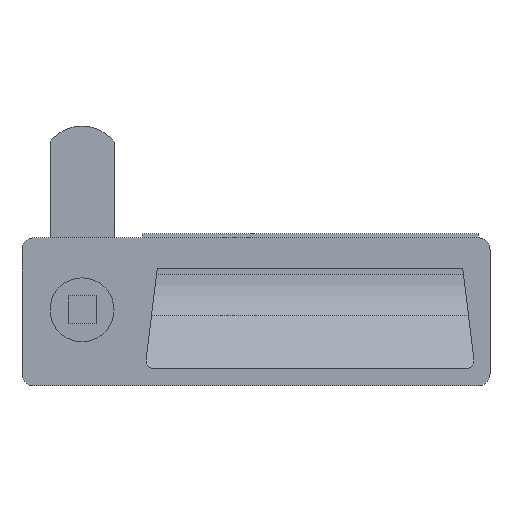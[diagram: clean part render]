
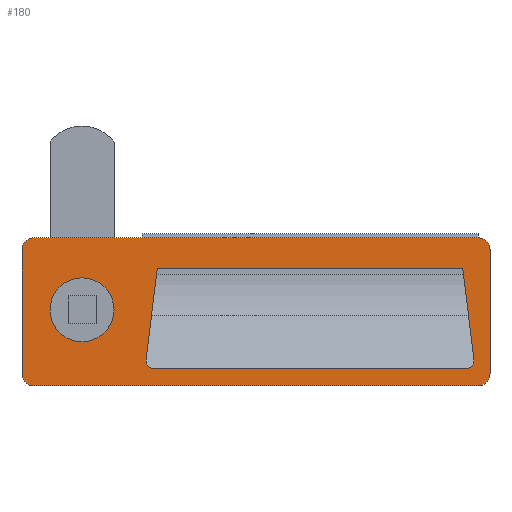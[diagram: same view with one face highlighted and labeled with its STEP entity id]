
A CAD part, top view. The second image highlights one B-rep face of the part: STEP entity #180.
In plain terms, the highlighted planar face has unit normal (0, 0, 1).
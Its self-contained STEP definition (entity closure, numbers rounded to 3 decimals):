
#180 = ADVANCED_FACE( '', ( #281, #282, #283 ), #284, .T. );
#281 = FACE_BOUND( '', #464, .T. );
#282 = FACE_OUTER_BOUND( '', #465, .T. );
#283 = FACE_BOUND( '', #466, .T. );
#284 = PLANE( '', #467 );
#464 = EDGE_LOOP( '', ( #714 ) );
#465 = EDGE_LOOP( '', ( #715, #716, #717, #718, #719, #720, #721, #722 ) );
#466 = EDGE_LOOP( '', ( #723, #724, #725, #726, #727, #728 ) );
#467 = AXIS2_PLACEMENT_3D( '', #729, #730, #731 );
#714 = ORIENTED_EDGE( '', *, *, #1325, .F. );
#715 = ORIENTED_EDGE( '', *, *, #1334, .T. );
#716 = ORIENTED_EDGE( '', *, *, #1335, .T. );
#717 = ORIENTED_EDGE( '', *, *, #1336, .T. );
#718 = ORIENTED_EDGE( '', *, *, #1337, .T. );
#719 = ORIENTED_EDGE( '', *, *, #1338, .T. );
#720 = ORIENTED_EDGE( '', *, *, #1339, .T. );
#721 = ORIENTED_EDGE( '', *, *, #1340, .T. );
#722 = ORIENTED_EDGE( '', *, *, #1341, .T. );
#723 = ORIENTED_EDGE( '', *, *, #1342, .F. );
#724 = ORIENTED_EDGE( '', *, *, #1343, .F. );
#725 = ORIENTED_EDGE( '', *, *, #1344, .F. );
#726 = ORIENTED_EDGE( '', *, *, #1345, .F. );
#727 = ORIENTED_EDGE( '', *, *, #1346, .F. );
#728 = ORIENTED_EDGE( '', *, *, #1347, .F. );
#729 = CARTESIAN_POINT( '', ( -12., -16., 2. ) );
#730 = DIRECTION( '', ( 0., 0., 1. ) );
#731 = DIRECTION( '', ( 1., 0., 0. ) );
#1325 = EDGE_CURVE( '', #1563, #1563, #1564, .T. );
#1334 = EDGE_CURVE( '', #1577, #1578, #1579, .T. );
#1335 = EDGE_CURVE( '', #1578, #1580, #1581, .T. );
#1336 = EDGE_CURVE( '', #1580, #1582, #1583, .T. );
#1337 = EDGE_CURVE( '', #1582, #1584, #1585, .T. );
#1338 = EDGE_CURVE( '', #1584, #1586, #1587, .T. );
#1339 = EDGE_CURVE( '', #1586, #1588, #1589, .T. );
#1340 = EDGE_CURVE( '', #1588, #1590, #1591, .T. );
#1341 = EDGE_CURVE( '', #1590, #1577, #1592, .T. );
#1342 = EDGE_CURVE( '', #1593, #1594, #1595, .T. );
#1343 = EDGE_CURVE( '', #1596, #1593, #1597, .T. );
#1344 = EDGE_CURVE( '', #1598, #1596, #1599, .T. );
#1345 = EDGE_CURVE( '', #1600, #1598, #1601, .T. );
#1346 = EDGE_CURVE( '', #1602, #1600, #1603, .T. );
#1347 = EDGE_CURVE( '', #1594, #1602, #1604, .T. );
#1563 = VERTEX_POINT( '', #1927 );
#1564 = CIRCLE( '', #1928, 8. );
#1577 = VERTEX_POINT( '', #1949 );
#1578 = VERTEX_POINT( '', #1950 );
#1579 = LINE( '', #1951, #1952 );
#1580 = VERTEX_POINT( '', #1953 );
#1581 = CIRCLE( '', #1954, 3. );
#1582 = VERTEX_POINT( '', #1955 );
#1583 = LINE( '', #1956, #1957 );
#1584 = VERTEX_POINT( '', #1958 );
#1585 = CIRCLE( '', #1959, 3. );
#1586 = VERTEX_POINT( '', #1960 );
#1587 = LINE( '', #1961, #1962 );
#1588 = VERTEX_POINT( '', #1963 );
#1589 = CIRCLE( '', #1964, 3. );
#1590 = VERTEX_POINT( '', #1965 );
#1591 = LINE( '', #1966, #1967 );
#1592 = CIRCLE( '', #1968, 3. );
#1593 = VERTEX_POINT( '', #1969 );
#1594 = VERTEX_POINT( '', #1970 );
#1595 = CIRCLE( '', #1971, 2. );
#1596 = VERTEX_POINT( '', #1972 );
#1597 = LINE( '', #1973, #1974 );
#1598 = VERTEX_POINT( '', #1975 );
#1599 = LINE( '', #1976, #1977 );
#1600 = VERTEX_POINT( '', #1978 );
#1601 = LINE( '', #1979, #1980 );
#1602 = VERTEX_POINT( '', #1981 );
#1603 = CIRCLE( '', #1982, 2. );
#1604 = LINE( '', #1983, #1984 );
#1927 = CARTESIAN_POINT( '', ( 8., 0., 2. ) );
#1928 = AXIS2_PLACEMENT_3D( '', #2398, #2399, #2400 );
#1949 = CARTESIAN_POINT( '', ( -15., 15., 2. ) );
#1950 = CARTESIAN_POINT( '', ( -15., -16., 2. ) );
#1951 = CARTESIAN_POINT( '', ( -15., 15., 2. ) );
#1952 = VECTOR( '', #2409, 1000. );
#1953 = CARTESIAN_POINT( '', ( -12., -19., 2. ) );
#1954 = AXIS2_PLACEMENT_3D( '', #2410, #2411, #2412 );
#1955 = CARTESIAN_POINT( '', ( 99., -19., 2. ) );
#1956 = CARTESIAN_POINT( '', ( -12., -19., 2. ) );
#1957 = VECTOR( '', #2413, 1000. );
#1958 = CARTESIAN_POINT( '', ( 102., -16., 2. ) );
#1959 = AXIS2_PLACEMENT_3D( '', #2414, #2415, #2416 );
#1960 = CARTESIAN_POINT( '', ( 102., 15., 2. ) );
#1961 = CARTESIAN_POINT( '', ( 102., -16., 2. ) );
#1962 = VECTOR( '', #2417, 1000. );
#1963 = CARTESIAN_POINT( '', ( 99., 18., 2. ) );
#1964 = AXIS2_PLACEMENT_3D( '', #2418, #2419, #2420 );
#1965 = CARTESIAN_POINT( '', ( -12., 18., 2. ) );
#1966 = CARTESIAN_POINT( '', ( 99., 18., 2. ) );
#1967 = VECTOR( '', #2421, 1000. );
#1968 = AXIS2_PLACEMENT_3D( '', #2422, #2423, #2424 );
#1969 = CARTESIAN_POINT( '', ( 16.025, -12.496, 2. ) );
#1970 = CARTESIAN_POINT( '', ( 18.011, -14.74, 2. ) );
#1971 = AXIS2_PLACEMENT_3D( '', #2425, #2426, #2427 );
#1972 = CARTESIAN_POINT( '', ( 18.82, 10.26, 2. ) );
#1973 = CARTESIAN_POINT( '', ( 18.82, 10.26, 2. ) );
#1974 = VECTOR( '', #2428, 1000. );
#1975 = CARTESIAN_POINT( '', ( 95.18, 10.26, 2. ) );
#1976 = CARTESIAN_POINT( '', ( 95.18, 10.26, 2. ) );
#1977 = VECTOR( '', #2429, 1000. );
#1978 = CARTESIAN_POINT( '', ( 97.975, -12.496, 2. ) );
#1979 = CARTESIAN_POINT( '', ( 97.975, -12.496, 2. ) );
#1980 = VECTOR( '', #2430, 1000. );
#1981 = CARTESIAN_POINT( '', ( 95.989, -14.74, 2. ) );
#1982 = AXIS2_PLACEMENT_3D( '', #2431, #2432, #2433 );
#1983 = CARTESIAN_POINT( '', ( 18.011, -14.74, 2. ) );
#1984 = VECTOR( '', #2434, 1000. );
#2398 = CARTESIAN_POINT( '', ( 0., 0., 2. ) );
#2399 = DIRECTION( '', ( 0., 0., 1. ) );
#2400 = DIRECTION( '', ( 1., 0., 0. ) );
#2409 = DIRECTION( '', ( 0., -1., 0. ) );
#2410 = CARTESIAN_POINT( '', ( -12., -16., 2. ) );
#2411 = DIRECTION( '', ( 0., 0., 1. ) );
#2412 = DIRECTION( '', ( 1., 0., 0. ) );
#2413 = DIRECTION( '', ( 1., 0., 0. ) );
#2414 = CARTESIAN_POINT( '', ( 99., -16., 2. ) );
#2415 = DIRECTION( '', ( 0., 0., 1. ) );
#2416 = DIRECTION( '', ( 1., 0., 0. ) );
#2417 = DIRECTION( '', ( 0., 1., 0. ) );
#2418 = CARTESIAN_POINT( '', ( 99., 15., 2. ) );
#2419 = DIRECTION( '', ( 0., 0., 1. ) );
#2420 = DIRECTION( '', ( 1., 0., 0. ) );
#2421 = DIRECTION( '', ( -1., 0., 0. ) );
#2422 = CARTESIAN_POINT( '', ( -12., 15., 2. ) );
#2423 = DIRECTION( '', ( 0., 0., 1. ) );
#2424 = DIRECTION( '', ( 1., 0., 0. ) );
#2425 = CARTESIAN_POINT( '', ( 18.011, -12.74, 2. ) );
#2426 = DIRECTION( '', ( 0., 0., 1. ) );
#2427 = DIRECTION( '', ( 1., 0., 0. ) );
#2428 = DIRECTION( '', ( -0.122, -0.993, 0. ) );
#2429 = DIRECTION( '', ( -1., 0., 0. ) );
#2430 = DIRECTION( '', ( -0.122, 0.993, 0. ) );
#2431 = CARTESIAN_POINT( '', ( 95.989, -12.74, 2. ) );
#2432 = DIRECTION( '', ( 0., 0., 1. ) );
#2433 = DIRECTION( '', ( 1., 0., 0. ) );
#2434 = DIRECTION( '', ( 1., 0., 0. ) );
